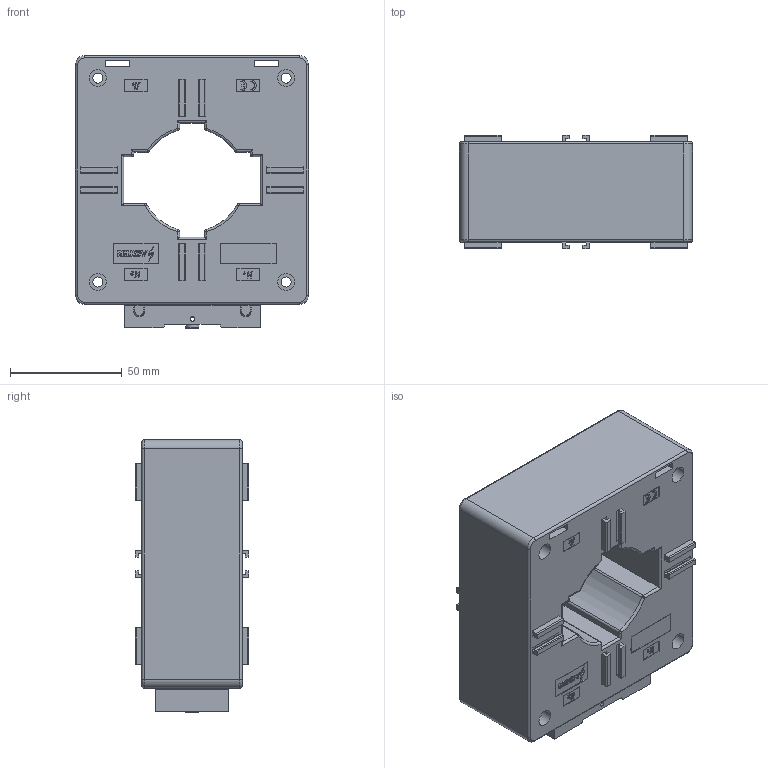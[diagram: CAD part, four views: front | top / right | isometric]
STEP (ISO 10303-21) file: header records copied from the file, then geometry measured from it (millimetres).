
FILE_DESCRIPTION (( 'STEP AP203' ), '1' );
FILE_NAME ('TT-B60.STEP', '2016-12-19T09:58:39', ( '' ), ( '' ), 'SwSTEP 2.0', 'SolidWorks 2015', '' );
FILE_SCHEMA (( 'CONFIG_CONTROL_DESIGN' ));
Length unit declared in the file: millimetre
Products named in the file (1): TT-B60
Bounding box: 104.2 x 50.8 x 121.9 mm (x, y, z)
Volume: 425945.8 mm3; surface area: 67448.2 mm2
Topology: 2 solids, 2 shells, 1413 faces, 3606 edges, 2280 vertices
Faces by surface type: plane 811, cylinder 283, bspline 247, cone 28, sphere 28, torus 16
Entity records: 50015 total; most frequent: CARTESIAN_POINT 17565, ORIENTED_EDGE 7172, DIRECTION 5740, EDGE_CURVE 3586, VECTOR 2462, LINE 2462, VERTEX_POINT 2280, AXIS2_PLACEMENT_3D 1639
